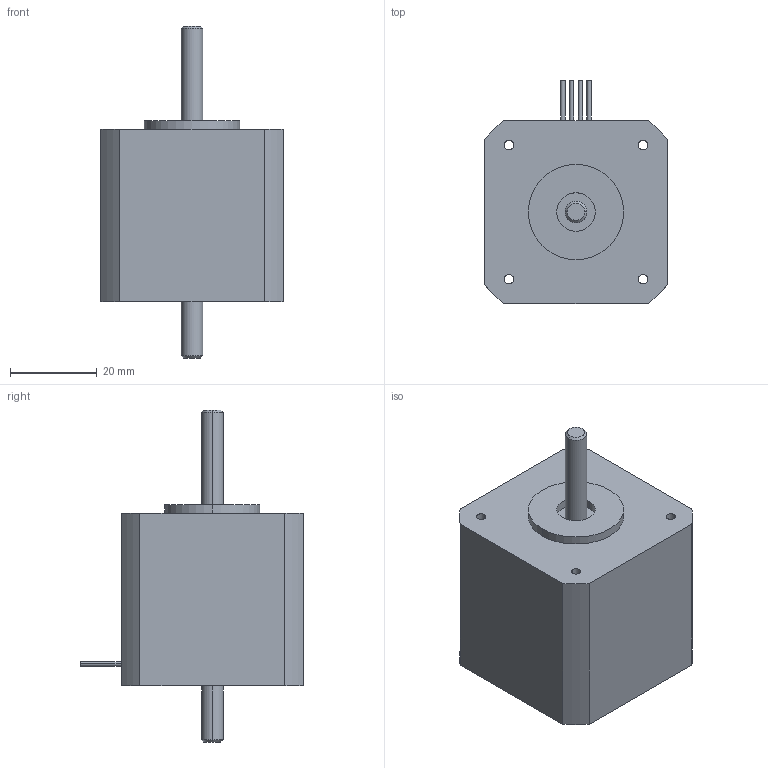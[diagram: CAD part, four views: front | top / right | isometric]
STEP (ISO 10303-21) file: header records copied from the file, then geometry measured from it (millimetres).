
FILE_DESCRIPTION((''),'2;1');
FILE_NAME('C:\Documents and Settings\rbadgerow\Desktop\webmodelmain\web step 3d\4118m\4118m d.stp','2005-05-12T07:20:56',('rbadgerow'),(''),'Autodesk Inventor 9','Autodesk Inventor 9','');
FILE_SCHEMA(('AUTOMOTIVE_DESIGN { 1 0 10303 214 1 1 1 1 }'));
Length unit declared in the file: inch
Products named in the file (1): 4118m d
Bounding box: 42.16 x 51.56 x 76.71 mm (x, y, z)
Volume: 70284.3 mm3; surface area: 11802.9 mm2
Topology: 2 solids, 2 shells, 50 faces, 110 edges, 72 vertices
Faces by surface type: cylinder 30, plane 16, cone 4
Entity records: 1446 total; most frequent: DIRECTION 276, CARTESIAN_POINT 233, ORIENTED_EDGE 220, AXIS2_PLACEMENT_3D 115, EDGE_CURVE 110, VERTEX_POINT 72, EDGE_LOOP 66, CIRCLE 64
